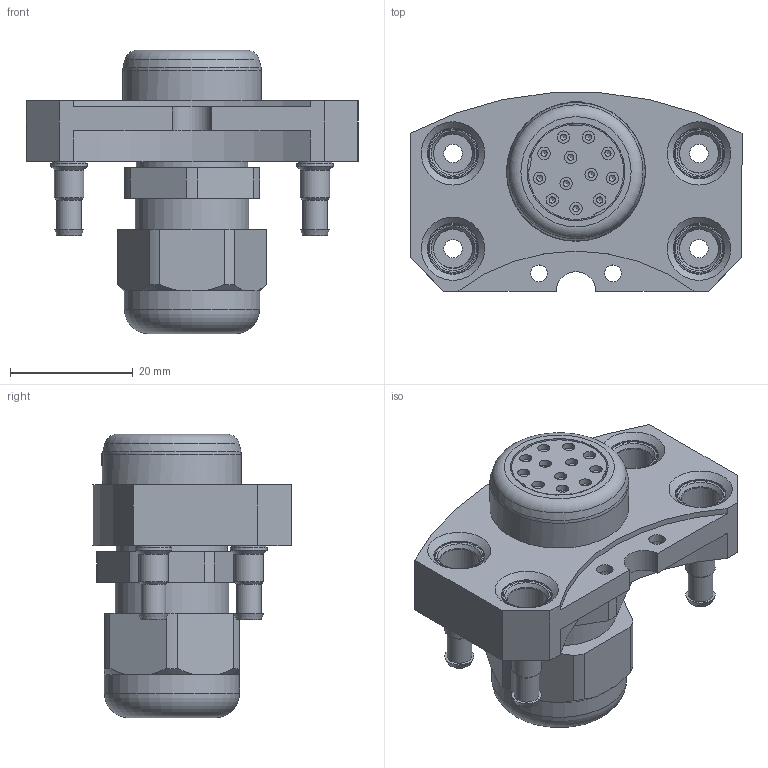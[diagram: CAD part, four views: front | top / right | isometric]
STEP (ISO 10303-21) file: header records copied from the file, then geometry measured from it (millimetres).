
FILE_DESCRIPTION((''),'2;1');
FILE_NAME('T:\CAD\Standard\Daten\3D-Datenbank\MEK\4 - 3D-CAD-Daten MEK 063-160\MEK063\step-Daten\G-MEK063-U-4Pk4-1E12.stp','2013-01-29T13:08:50',('Yvonne'),(''),'Autodesk Inventor 2011','Autodesk Inventor 2011','');
FILE_SCHEMA(('AUTOMOTIVE_DESIGN { 1 0 10303 214 1 1 1 1 }'));
Length unit declared in the file: millimetre
Products named in the file (1): Bauteil1
Bounding box: 54 x 32.26 x 46.1 mm (x, y, z)
Volume: 23140.8 mm3; surface area: 14465.9 mm2
Topology: 1 solids, 1 shells, 366 faces, 879 edges, 533 vertices
Faces by surface type: cylinder 142, plane 136, cone 59, torus 29
Full cylindrical faces by diameter (mm): 1 x12, 1.6 x12, 2 x26, 2.7 x2, 3 x4, 4 x4, 4.8 x4, 5 x2, 5.5 x4, 5.9 x4, 6 x4, 6.3 x4, 8 x4, 8.3 x4, 10 x1, 14 x1, 15.9 x1, 17.1 x1, 18.1 x1, 18.5 x1, 22 x1, 22.6 x1
Entity records: 11155 total; most frequent: CARTESIAN_POINT 2997, DIRECTION 1675, ORIENTED_EDGE 1380, AXIS2_PLACEMENT_3D 697, EDGE_CURVE 690, EDGE_LOOP 575, VERTEX_POINT 484, FACE_OUTER_BOUND 366
